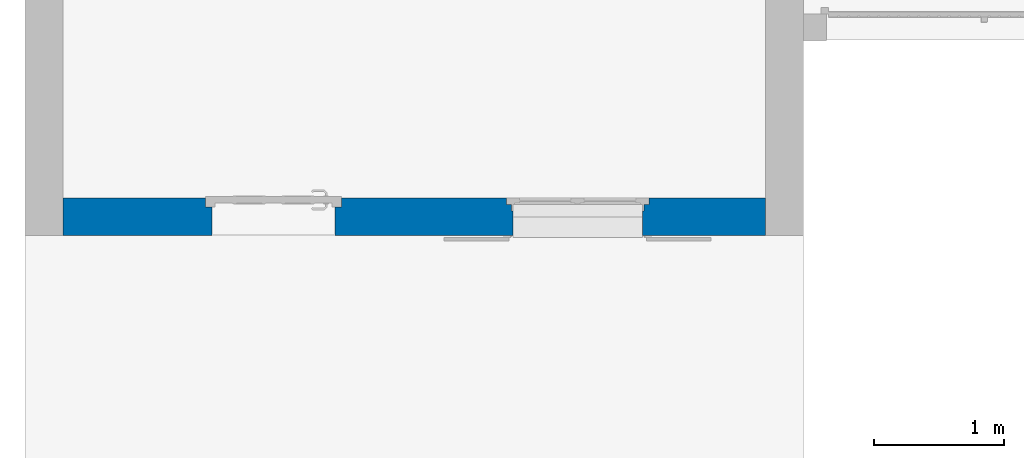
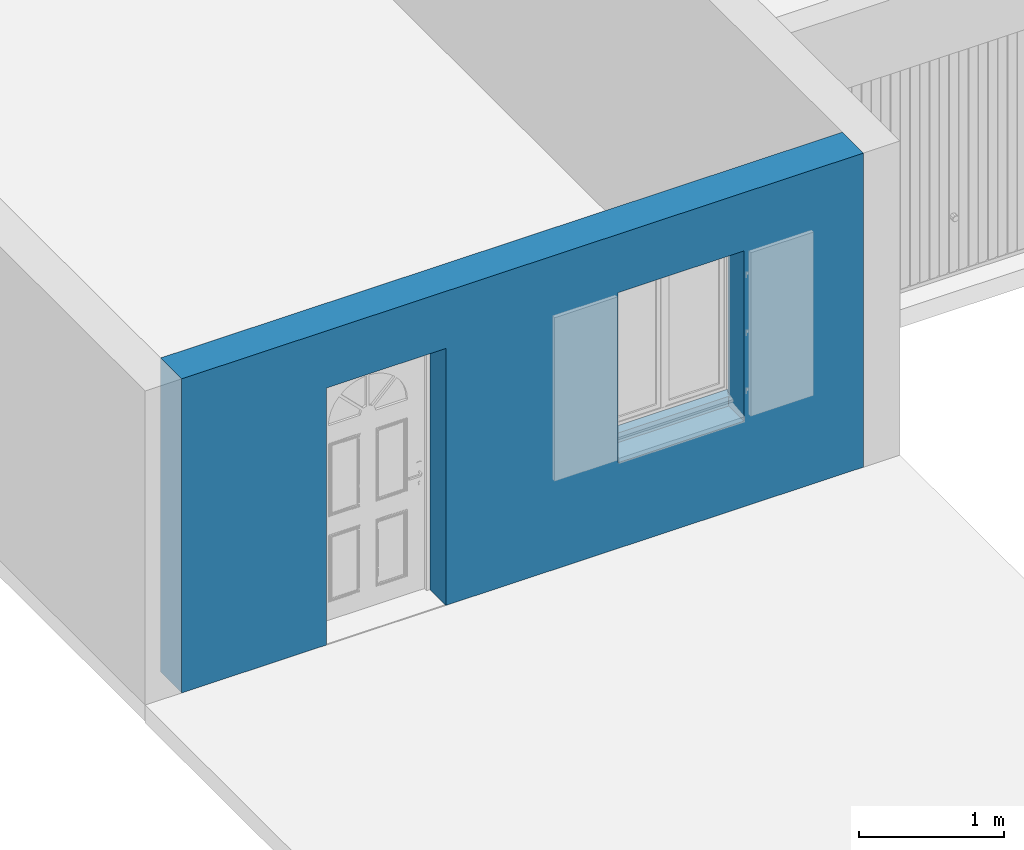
# One storey, part 2 of 6: 1 wall, 2 openings.
"""IFC2X3 building model written with IfcOpenShell, lengths in metres."""

import ifcopenshell
import ifcopenshell.guid

model = None  # the IFC model being written
_history = None  # IfcOwnerHistory: only IFC2X3 demands one
_inside = {}  # id of a spatial element -> (the spatial element, [elements in it])
_under = {}  # id of a project, library or spatial element -> (it, [spatial elements below it])
_declared = {}  # id of a project -> (the project, [libraries it declares])
_typed = {}  # id of a type object -> (the type object, [elements of that type])
_made_of = {}  # id of a material, layer set ... -> (it, [elements and type objects made of it])


def new_model(schema):
    """Start an empty IFC model of exactly this schema.

    Asked for "IFC4X3", IfcOpenShell would pick the latest addendum, in which some entities
    have other attributes; the version numbers below select the first issue.
    IFC2X3 requires an IfcOwnerHistory on every rooted entity: one is made here for all.
    """
    global model, _history
    if schema == "IFC4X3":
        model = ifcopenshell.file(schema_version=(4, 3, 0, 0))
    else:
        model = ifcopenshell.file(schema=schema)
    _inside.clear()
    _under.clear()
    _declared.clear()
    _typed.clear()
    _made_of.clear()
    _history = None
    if model.schema == "IFC2X3":
        org = make("IfcOrganization", Name="unknown")
        user = make(
            "IfcPersonAndOrganization",
            ThePerson=make("IfcPerson", FamilyName="unknown"),
            TheOrganization=org,
        )
        app = make(
            "IfcApplication",
            ApplicationDeveloper=org,
            Version="unknown",
            ApplicationFullName="unknown",
            ApplicationIdentifier="unknown",
        )
        _history = make(
            "IfcOwnerHistory",
            OwningUser=user,
            OwningApplication=app,
            ChangeAction="ADDED",
            CreationDate=0,
        )
    return model


def make(cls, **values):
    """One entity of the class cls with the attributes given. An attribute that is None is left unset."""
    return model.create_entity(
        cls, **{name: value for name, value in values.items() if value is not None}
    )


def entity(cls, *values):
    """Any entity or typed value of the class cls, its attributes in the order of the schema. None: left unset."""
    e = model.create_entity(cls)
    for i, value in enumerate(values):
        if value is not None:
            e[i] = value
    return e


def rooted(cls, **values):
    """An entity with a GlobalId (a new one), such as an element, a storey or a relation."""
    return make(cls, GlobalId=ifcopenshell.guid.new(), OwnerHistory=_history, **values)


def si_unit(unit_type, name, prefix=None):
    """IfcSIUnit, for example si_unit("LENGTHUNIT", "METRE", prefix="MILLI")."""
    return make("IfcSIUnit", UnitType=unit_type, Prefix=prefix, Name=name)


def converted_unit(unit_type, name, factor, base, dimensions=None, offset=None):
    """IfcConversionBasedUnit, such as the inch: factor (a typed value) times the base unit."""
    return make(
        "IfcConversionBasedUnit"
        if offset is None
        else "IfcConversionBasedUnitWithOffset",
        ConversionOffset=offset,
        Dimensions=None
        if dimensions is None
        else entity("IfcDimensionalExponents", *dimensions),
        UnitType=unit_type,
        Name=name,
        ConversionFactor=make(
            "IfcMeasureWithUnit", ValueComponent=factor, UnitComponent=base
        ),
    )


def derived_unit(unit_type, elements):
    """IfcDerivedUnit: a product of units, each with its exponent."""
    return make(
        "IfcDerivedUnit",
        Elements=[
            make("IfcDerivedUnitElement", Unit=unit, Exponent=power)
            for unit, power in elements
        ],
        UnitType=unit_type,
    )


def assignment(units):
    """IfcUnitAssignment: the units of a project."""
    return None if units is None else make("IfcUnitAssignment", Units=units)


def point(xyz):
    """IfcCartesianPoint."""
    return None if xyz is None else make("IfcCartesianPoint", Coordinates=xyz)


def direction(xyz):
    """IfcDirection."""
    return None if xyz is None else make("IfcDirection", DirectionRatios=xyz)


def frame(location, z_axis=None, x_axis=None):
    """IfcAxis2Placement3D, a coordinate frame: its origin and axes. An axis left out is left unset."""
    return make(
        "IfcAxis2Placement3D",
        Location=point(location),
        Axis=direction(z_axis),
        RefDirection=direction(x_axis),
    )


def frame_2d(location, x_axis=None):
    """IfcAxis2Placement2D, a coordinate frame in the plane: its origin and x axis."""
    return make(
        "IfcAxis2Placement2D", Location=point(location), RefDirection=direction(x_axis)
    )


def origin():
    """The frame at (0, 0, 0) with its axes left unset."""
    return frame((0.0, 0.0, 0.0))


def place(relative_to, where):
    """IfcLocalPlacement: puts the frame where relative to a parent placement (None: the world)."""
    return make(
        "IfcLocalPlacement", PlacementRelTo=relative_to, RelativePlacement=where
    )


def context(
    kind, dimensions, precision=None, world=None, true_north=None, identifier=None
):
    """IfcGeometricRepresentationContext, for example the 3D "Model" context."""
    return make(
        "IfcGeometricRepresentationContext",
        ContextIdentifier=identifier,
        ContextType=kind,
        CoordinateSpaceDimension=dimensions,
        Precision=precision,
        WorldCoordinateSystem=world,
        TrueNorth=true_north,
    )


def subcontext(parent, identifier, kind, view, scale=None):
    """IfcGeometricRepresentationSubContext, for example "Body" below "Model"."""
    return make(
        "IfcGeometricRepresentationSubContext",
        ContextIdentifier=identifier,
        ContextType=kind,
        ParentContext=parent,
        TargetScale=scale,
        TargetView=view,
    )


def project(units=None, contexts=None):
    """IfcProject with its units and contexts."""
    return rooted(
        "IfcProject",
        Name="project",
        RepresentationContexts=contexts,
        UnitsInContext=assignment(units),
    )


def spatial(cls, under=None, at=None, **own):
    """A site, building, storey or space (cls), placed at a placement, below another one or the project."""
    s = rooted(cls, ObjectPlacement=at, **own)
    if under is not None:
        _under.setdefault(under.id(), (under, []))[1].append(s)
    return s


def profile(cls, at=None, kind="AREA", **sizes):
    """A parametric profile (cls). Its sizes go by their IFC names, for example OverallWidth=200.0."""
    return make(cls, ProfileType=kind, Position=at, **sizes)


def rectangle(**sizes):
    """IfcRectangleProfileDef."""
    return profile("IfcRectangleProfileDef", **sizes)


def extrude(swept, where, along, depth):
    """IfcExtrudedAreaSolid: the profile swept, set in the frame where, extruded along a direction by depth."""
    return make(
        "IfcExtrudedAreaSolid",
        SweptArea=swept,
        Position=where,
        ExtrudedDirection=direction(along),
        Depth=depth,
    )


def faces_of(points, faces, orient=None, outer=None):
    """IfcFace entities. A face is a list of loops; a loop is a list of indices into points, from 0.

    orient and outer hold one flag for each loop. By default every Orientation is true, the
    first loop of a face is its IfcFaceOuterBound and the others are IfcFaceBound.
    """
    made = []
    for i, loops in enumerate(faces):
        bounds = []
        for j, loop in enumerate(loops):
            is_outer = j == 0 if outer is None else outer[i][j]
            bounds.append(
                make(
                    "IfcFaceOuterBound" if is_outer else "IfcFaceBound",
                    Bound=make("IfcPolyLoop", Polygon=[points[k] for k in loop]),
                    Orientation=True if orient is None else orient[i][j],
                )
            )
        made.append(make("IfcFace", Bounds=bounds))
    return made


def faceted_brep(points, faces, orient=None, outer=None, voids=None):
    """IfcFacetedBrep: a solid bounded by flat faces; with voids (closed shells), ...WithVoids."""
    shared = [point(p) for p in points]
    hull = make("IfcClosedShell", CfsFaces=faces_of(shared, faces, orient, outer))
    if voids is None:
        return make("IfcFacetedBrep", Outer=hull)
    return make(
        "IfcFacetedBrepWithVoids",
        Outer=hull,
        Voids=[
            make(cls, CfsFaces=faces_of(shared, fs, o, b)) for cls, fs, o, b in voids
        ],
    )


def shape(context_of_items, identifier, shape_type, items):
    """IfcShapeRepresentation: the items that make up one representation, for example the "Body"."""
    return make(
        "IfcShapeRepresentation",
        ContextOfItems=context_of_items,
        RepresentationIdentifier=identifier,
        RepresentationType=shape_type,
        Items=items,
    )


def material(Name=None, Category=None):
    """IfcMaterial."""
    return make("IfcMaterial", Name=Name, Category=Category)


def layer(
    of_material, thickness, ventilated=None, Name=None, Category=None, Priority=None
):
    """IfcMaterialLayer: one layer of a wall or slab, of a material (None: an air gap)."""
    return make(
        "IfcMaterialLayer",
        Material=of_material,
        LayerThickness=thickness,
        IsVentilated=ventilated,
        Name=Name,
        Category=Category,
        Priority=Priority,
    )


def layer_set(layers, Name=None):
    """IfcMaterialLayerSet."""
    return make("IfcMaterialLayerSet", MaterialLayers=layers, LayerSetName=Name)


def layer_usage(for_layer_set, set_direction, sense, offset, extent=None):
    """IfcMaterialLayerSetUsage: how a layer set lies in its element."""
    return make(
        "IfcMaterialLayerSetUsage",
        ForLayerSet=for_layer_set,
        LayerSetDirection=set_direction,
        DirectionSense=sense,
        OffsetFromReferenceLine=offset,
        ReferenceExtent=extent,
    )


def made_of(thing, what):
    """Note that an element or type object is made of a material, layer set ...; save() writes the relation."""
    if what is not None:
        _made_of.setdefault(what.id(), (what, []))[1].append(thing)
    return thing


def type_object(cls, material=None, **own):
    """A type object (cls), such as IfcWallType, which elements share."""
    return made_of(rooted(cls, **own), material)


def element(
    cls,
    number,
    at=None,
    inside=None,
    cuts=None,
    type_object=None,
    material=None,
    context=None,
    identifier="Body",
    shape_type=None,
    held_by="IfcProductDefinitionShape",
    body=None,
    shapes=None,
    **own,
):
    """One element of the class cls, such as IfcWall. Its Tag is "e" and its number.

    at: its placement. inside: the storey or other place that contains it. cuts: it is an
    opening in that element (IfcRelVoidsElement). A single representation is given by context,
    identifier, shape_type and body (its items); several are given by shapes. held_by: the class
    of the entity that holds the representations. save() writes the other relations.
    """
    e = rooted(cls, Tag="e%d" % number, ObjectPlacement=at, **own)
    if body is not None:
        shapes = [shape(context, identifier, shape_type, body)]
    if shapes is not None:
        e.Representation = make(held_by, Representations=shapes)
    if inside is not None:
        _inside.setdefault(inside.id(), (inside, []))[1].append(e)
    if cuts is not None:
        rooted(
            "IfcRelVoidsElement", RelatingBuildingElement=cuts, RelatedOpeningElement=e
        )
    if type_object is not None:
        _typed.setdefault(type_object.id(), (type_object, []))[1].append(e)
    return made_of(e, material)


def aggregate(whole, parts):
    """IfcRelAggregates: a whole, such as a stair, and the parts it consists of."""
    return rooted("IfcRelAggregates", RelatingObject=whole, RelatedObjects=parts)


def save(model, path):
    """Write the relations noted so far, then the file.

    IfcRelAggregates (storeys below a building ...), IfcRelContainedInSpatialStructure (elements
    in a storey), IfcRelDefinesByType, IfcRelAssociatesMaterial and IfcRelDeclares: one each for
    every whole, place, type object, material and project.
    """
    for whole, parts in _under.values():
        aggregate(whole, parts)
    for where, things in _inside.values():
        rooted(
            "IfcRelContainedInSpatialStructure",
            RelatedElements=things,
            RelatingStructure=where,
        )
    for kind, things in _typed.values():
        rooted("IfcRelDefinesByType", RelatedObjects=things, RelatingType=kind)
    for what, things in _made_of.values():
        rooted("IfcRelAssociatesMaterial", RelatedObjects=things, RelatingMaterial=what)
    for by, libraries in _declared.values():
        rooted("IfcRelDeclares", RelatingContext=by, RelatedDefinitions=libraries)
    model.write(path)


model = new_model("IFC2X3")

# Units and contexts
model_context = context("Model", 3, precision=1e-05, world=origin(), true_north=direction((6.12303176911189e-17, 1.0)))
context_of_model = context(None, 3, precision=1e-05, world=origin(), true_north=direction((6.12303176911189e-17, 1.0)))
body_context = subcontext(model_context, "Body", "Model", "MODEL_VIEW")
ifc_project = project(units=[si_unit("LENGTHUNIT", "METRE"), si_unit("AREAUNIT", "SQUARE_METRE"), si_unit("VOLUMEUNIT", "CUBIC_METRE"), converted_unit("PLANEANGLEUNIT", "DEGREE", entity("IfcRatioMeasure", 0.0174532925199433), si_unit("PLANEANGLEUNIT", "RADIAN"), dimensions=[0, 0, 0, 0, 0, 0, 0]), si_unit("MASSUNIT", "GRAM", prefix="KILO"), si_unit("TIMEUNIT", "SECOND"), si_unit("FREQUENCYUNIT", "HERTZ"), si_unit("THERMODYNAMICTEMPERATUREUNIT", "DEGREE_CELSIUS"), derived_unit("THERMALTRANSMITTANCEUNIT", [(si_unit("MASSUNIT", "GRAM", prefix="KILO"), 1), (si_unit("THERMODYNAMICTEMPERATUREUNIT", "KELVIN"), -1), (si_unit("TIMEUNIT", "SECOND"), -3)]), derived_unit("VOLUMETRICFLOWRATEUNIT", [(si_unit("LENGTHUNIT", "METRE"), 3), (si_unit("TIMEUNIT", "SECOND"), -1)]), si_unit("ELECTRICCURRENTUNIT", "AMPERE"), si_unit("ELECTRICVOLTAGEUNIT", "VOLT"), si_unit("POWERUNIT", "WATT"), si_unit("FORCEUNIT", "NEWTON", prefix="KILO"), si_unit("ILLUMINANCEUNIT", "LUX"), si_unit("LUMINOUSFLUXUNIT", "LUMEN"), si_unit("LUMINOUSINTENSITYUNIT", "CANDELA"), si_unit("PRESSUREUNIT", "PASCAL")], contexts=[model_context, context_of_model])

# Site, building, storey
site_placement = place(None, origin())
site = spatial("IfcSite", under=ifc_project, at=site_placement, Name="Surface", CompositionType="ELEMENT")
building_placement = place(site_placement, origin())
building = spatial("IfcBuilding", under=site, at=building_placement, CompositionType="ELEMENT")
storey_placement = place(building_placement, origin())
storey = spatial("IfcBuildingStorey", under=building, at=storey_placement, Name="Niveau 0", CompositionType="ELEMENT", Elevation=-1.94916083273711e-14)

# Wall, openings
ifc_material_1 = material(Name="Maçonnerie - Enduit")
ifc_layer_1 = layer(ifc_material_1, 0.01)
ifc_material_2 = material(Name="Eléments de maçonnerie en béton")
ifc_layer_2 = layer(ifc_material_2, 0.2)
ifc_material_3 = material(Name="Maçonnerie - Isolant")
ifc_layer_3 = layer(ifc_material_3, 0.08)
ifc_layer_set = layer_set([ifc_layer_1, ifc_layer_2, ifc_layer_3], Name="Mur de base:Ext. Parpaing 20 + Isolant 8")
ifc_layer_usage = layer_usage(ifc_layer_set, "AXIS2", "NEGATIVE", 0.145)
wall_type = type_object("IfcWallType", Name="Mur de base:Ext. Parpaing 20 + Isolant 8", PredefinedType="STANDARD", material=ifc_layer_set)
wall_placement = place(storey_placement, frame((-3.08909160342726, -7.21358265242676, 0.0), z_axis=(0.0, 0.0, 1.0), x_axis=(-1.0, 0.0, 0.0)))
wall = element("IfcWallStandardCase", 1, at=wall_placement, inside=storey, type_object=wall_type, material=ifc_layer_usage, Name="Mur de base:Ext. Parpaing 20 + Isolant 8", ObjectType="Mur de base:Ext. Parpaing 20 + Isolant 8", context=body_context, shape_type="SweptSolid", body=[
    extrude(rectangle(XDim=5.42, YDim=0.289999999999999, at=frame_2d((2.71, 0.0), x_axis=(-1.0, 0.0))), origin(), (0.0, 0.0, 1.0), 2.64000000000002),
])
opening_1_placement = place(wall_placement, frame((4.31999999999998, 0.445000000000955, 0.0), z_axis=(0.0, 0.0, 1.0), x_axis=(-1.0, 0.0, 0.0)))
element("IfcOpeningElement", 2, at=opening_1_placement, cuts=wall, Name="Mur de base:Ext. Parpaing 20 + Isolant 8", ObjectType="Opening", context=body_context, shape_type="Brep", body=[
    faceted_brep([(0.0499999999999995, 0.890000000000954, 2.16000000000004), (0.0499999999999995, 0.590000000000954, 2.16000000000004), (1.0, 0.590000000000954, 2.16000000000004), (1.0, 0.890000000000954, 2.16000000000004), (0.0499999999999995, 0.0, 0.0), (0.0499999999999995, 0.520000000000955, 0.0), (0.0, 0.520000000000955, 0.0), (0.0, 0.590000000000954, 0.0), (0.0499999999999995, 0.590000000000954, 0.0), (0.0499999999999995, 0.890000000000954, 0.0), (1.0, 0.890000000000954, 0.0), (1.0, 0.590000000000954, 0.0), (1.04999999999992, 0.590000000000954, 0.0), (1.04999999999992, 0.520000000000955, 0.0), (1.0, 0.520000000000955, 0.0), (1.0, 0.0, 0.0), (0.0500000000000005, 0.0, 2.16000000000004), (1.0, 0.0, 2.16000000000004), (0.0499999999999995, 0.520000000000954, 2.16000000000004), (0.0, 0.590000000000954, 2.21000000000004), (1.04999999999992, 0.590000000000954, 2.21000000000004), (1.04999999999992, 0.520000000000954, 2.21000000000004), (0.0, 0.520000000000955, 2.21000000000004), (1.0, 0.520000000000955, 2.16000000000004)], [[[0, 1, 2, 3]], [[4, 5, 6, 7, 8, 9, 10, 11, 12, 13, 14, 15]], [[16, 4, 15, 17]], [[3, 2, 11, 10]], [[3, 10, 9, 0]], [[16, 18, 5, 4]], [[11, 2, 1, 8, 7, 19, 20, 12]], [[12, 20, 21, 13]], [[13, 21, 22, 6, 5, 18, 23, 14]], [[19, 22, 21, 20]], [[7, 6, 22, 19]], [[9, 8, 1, 0]], [[15, 14, 23, 17]], [[17, 23, 18, 16]]]),
])
opening_2_placement = place(wall_placement, frame((2.0, 0.500000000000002, 0.72), z_axis=(0.0, 0.0, 1.0), x_axis=(-1.0, 0.0, 0.0)))
element("IfcOpeningElement", 3, at=opening_2_placement, cuts=wall, Name="Mur de base:Ext. Parpaing 20 + Isolant 8", ObjectType="Opening", context=body_context, shape_type="Brep", body=[
    faceted_brep([(1.05, 0.565000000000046, 0.0800000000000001), (1.05, 0.544999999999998, 0.0800000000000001), (1.05, 0.544999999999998, 1.43), (1.05, 0.0, 1.43), (1.05, 0.0, 0.0), (1.05, 0.565000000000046, 0.0), (0.0500000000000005, 1.0, 0.0800000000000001), (0.0499999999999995, 0.645000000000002, 0.0800000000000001), (0.0499999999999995, 0.645000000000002, 1.43), (0.0500000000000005, 1.0, 1.43), (1.05, 1.0, 0.0800000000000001), (1.05, 0.645000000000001, 0.0800000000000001), (1.1, 0.645000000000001, 0.0800000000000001), (1.1, 0.595000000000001, 0.0800000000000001), (1.06, 0.595000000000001, 0.0800000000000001), (1.06, 0.544999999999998, 0.0800000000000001), (0.0499999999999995, 0.565000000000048, 0.0800000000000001), (0.0499999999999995, 0.544999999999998, 0.0800000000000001), (0.0399999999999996, 0.544999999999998, 0.0800000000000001), (0.0399999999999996, 0.595000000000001, 0.0800000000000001), (0.0, 0.595000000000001, 0.0800000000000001), (0.0, 0.645000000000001, 0.0800000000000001), (1.05, 1.0, 1.43), (0.0499999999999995, 0.544999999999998, 1.43), (0.0499999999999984, 0.0, 1.43), (0.0499999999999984, 0.0, 0.0), (0.0499999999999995, 0.565000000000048, 0.0), (1.1, 0.645000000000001, 1.48), (1.1, 0.595000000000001, 1.48), (0.0, 0.595000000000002, 1.48), (0.0399999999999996, 0.595000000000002, 1.44), (1.06, 0.595000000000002, 1.44), (1.06, 0.545, 1.44), (0.0399999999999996, 0.544999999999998, 1.44), (1.05, 0.645000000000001, 1.43), (0.0, 0.645000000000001, 1.48)], [[[0, 1, 2, 3, 4, 5]], [[6, 7, 8, 9]], [[10, 11, 12, 13, 14, 15, 1, 0, 16, 17, 18, 19, 20, 21, 7, 6]], [[10, 6, 9, 22]], [[3, 2, 23, 24]], [[3, 24, 25, 4]], [[4, 25, 26, 5]], [[5, 26, 16, 0]], [[12, 27, 28, 13]], [[13, 28, 29, 20, 19, 30, 31, 14]], [[14, 31, 32, 15]], [[15, 32, 33, 18, 17, 23, 2, 1]], [[11, 34, 8, 7, 21, 35, 27, 12]], [[27, 35, 29, 28]], [[30, 33, 32, 31]], [[29, 35, 21, 20]], [[19, 18, 33, 30]], [[9, 8, 34, 22]], [[24, 23, 17, 16, 26, 25]], [[22, 34, 11, 10]]]),
])

save(model, "model.ifc")
